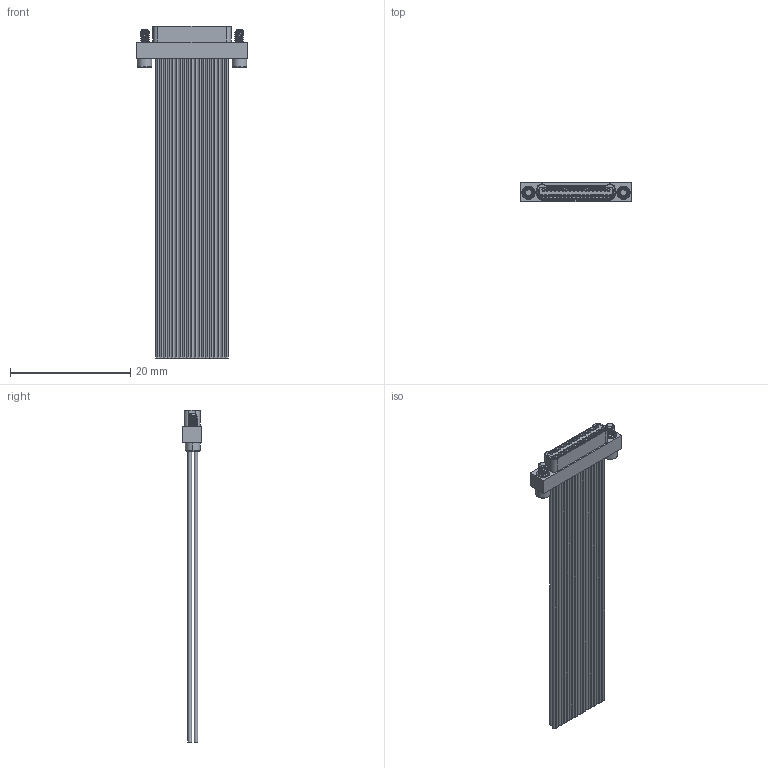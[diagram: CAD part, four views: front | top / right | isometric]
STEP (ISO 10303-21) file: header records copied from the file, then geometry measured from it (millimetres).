
FILE_DESCRIPTION (( 'STEP AP214' ), '1' );
FILE_NAME ('A28000-037 REV G.STEP', '2015-11-04T15:31:59', ( '' ), ( '' ), 'SwSTEP 2.0', 'SolidWorks 2015', '' );
FILE_SCHEMA (( 'AUTOMOTIVE_DESIGN' ));
Length unit declared in the file: inch
Products named in the file (1): A28000-037
Bounding box: 18.41 x 3.19 x 55.12 mm (x, y, z)
Volume: 755.1 mm3; surface area: 4475.7 mm2
Topology: 1 solids, 3 shells, 806 faces, 1811 edges, 1192 vertices
Faces by surface type: cylinder 368, plane 330, bspline 54, cone 38, torus 16
Entity records: 28007 total; most frequent: CARTESIAN_POINT 9744, DIRECTION 3887, ORIENTED_EDGE 3622, EDGE_CURVE 1811, AXIS2_PLACEMENT_3D 1513, VERTEX_POINT 1192, EDGE_LOOP 987, VECTOR 861
